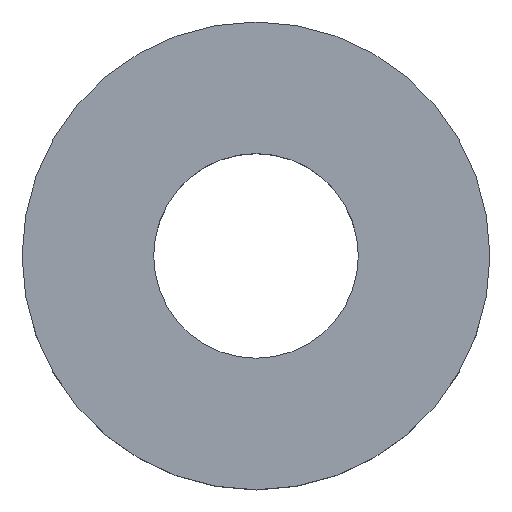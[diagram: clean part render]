
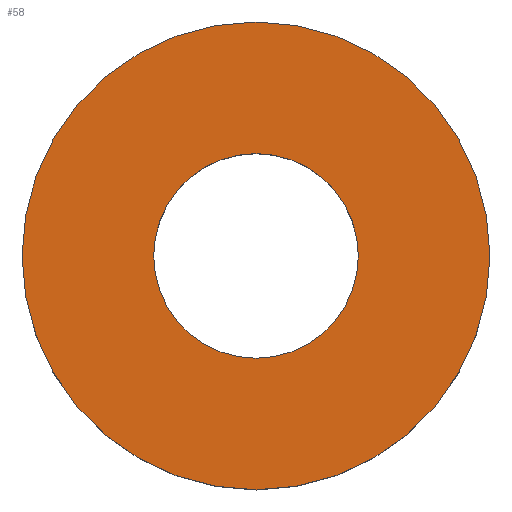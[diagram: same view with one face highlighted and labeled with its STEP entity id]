
A CAD part, top view. The second image highlights one B-rep face of the part: STEP entity #58.
In plain terms, the highlighted planar face has unit normal (0, 0, 1).
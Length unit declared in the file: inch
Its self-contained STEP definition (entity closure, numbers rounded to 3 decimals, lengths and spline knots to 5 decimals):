
#16=PLANE('',#68);
#20=FACE_BOUND('',#32,.T.);
#24=FACE_OUTER_BOUND('',#31,.T.);
#31=EDGE_LOOP('',(#51));
#32=EDGE_LOOP('',(#52));
#33=CIRCLE('',#62,0.21875);
#35=CIRCLE('',#65,0.5);
#37=VERTEX_POINT('',#89);
#39=VERTEX_POINT('',#94);
#41=EDGE_CURVE('',#37,#37,#33,.T.);
#43=EDGE_CURVE('',#39,#39,#35,.T.);
#51=ORIENTED_EDGE('',*,*,#43,.T.);
#52=ORIENTED_EDGE('',*,*,#41,.T.);
#58=ADVANCED_FACE('',(#24,#20),#16,.T.);
#62=AXIS2_PLACEMENT_3D('',#90,#73,#74);
#65=AXIS2_PLACEMENT_3D('',#95,#79,#80);
#68=AXIS2_PLACEMENT_3D('',#99,#85,#86);
#73=DIRECTION('center_axis',(0.,0.,-1.));
#74=DIRECTION('ref_axis',(-1.,0.,0.));
#79=DIRECTION('center_axis',(0.,0.,1.));
#80=DIRECTION('ref_axis',(-1.,0.,0.));
#85=DIRECTION('center_axis',(0.,0.,1.));
#86=DIRECTION('ref_axis',(1.,0.,0.));
#89=CARTESIAN_POINT('',(0.21875,0.,0.25));
#90=CARTESIAN_POINT('Origin',(0.,0.,0.25));
#94=CARTESIAN_POINT('',(0.5,0.,0.25));
#95=CARTESIAN_POINT('Origin',(0.,0.,0.25));
#99=CARTESIAN_POINT('Origin',(0.,0.,
0.25));
